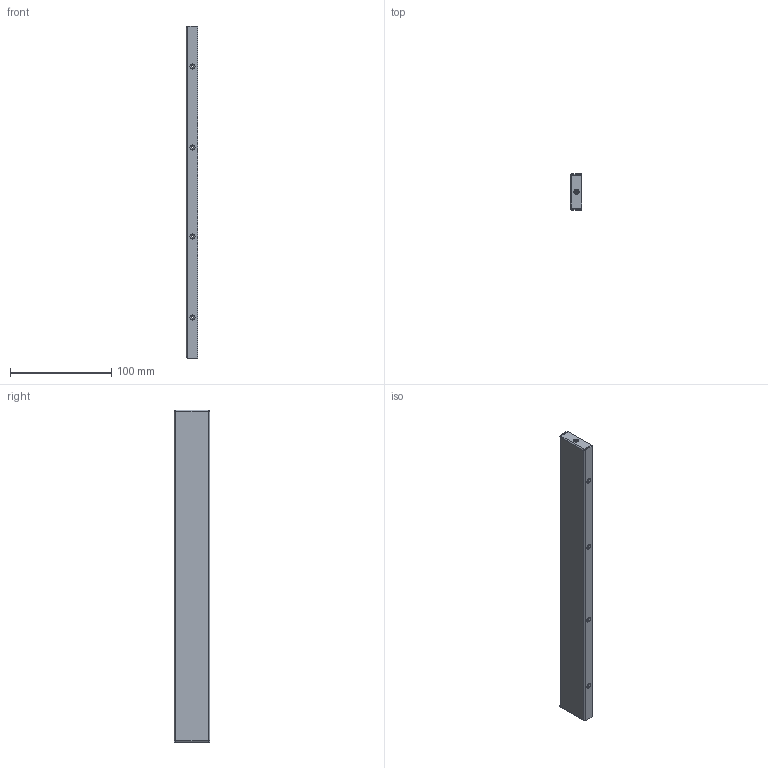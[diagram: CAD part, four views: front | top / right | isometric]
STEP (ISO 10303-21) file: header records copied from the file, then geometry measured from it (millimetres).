
FILE_DESCRIPTION((''),'2;1');
FILE_NAME('OCP3-SIDEWALL-LP-LONG_1','2022-09-14T15:14:21',('Jon_Lewis'),('Dell Technologies'),'CREO PARAMETRIC BY PTC INC, 2020281','CREO PARAMETRIC BY PTC INC, 2020281','');
FILE_SCHEMA(('AUTOMOTIVE_DESIGN { 1 0 10303 214 1 1 1 1 }'));
Length unit declared in the file: millimetre
Products named in the file (1): OCP3-SIDEWALL-LP-LONG_1
Bounding box: 11 x 35.03 x 328 mm (x, y, z)
Volume: 18491.4 mm3; surface area: 37890.6 mm2
Topology: 1 solids, 1 shells, 142 faces, 319 edges, 180 vertices
Faces by surface type: plane 54, cylinder 48, torus 40
Entity records: 5131 total; most frequent: DIRECTION 923, CARTESIAN_POINT 748, ORIENTED_EDGE 616, AXIS2_PLACEMENT_3D 375, EDGE_CURVE 308, CIRCLE 186, VERTEX_POINT 168, EDGE_LOOP 162
